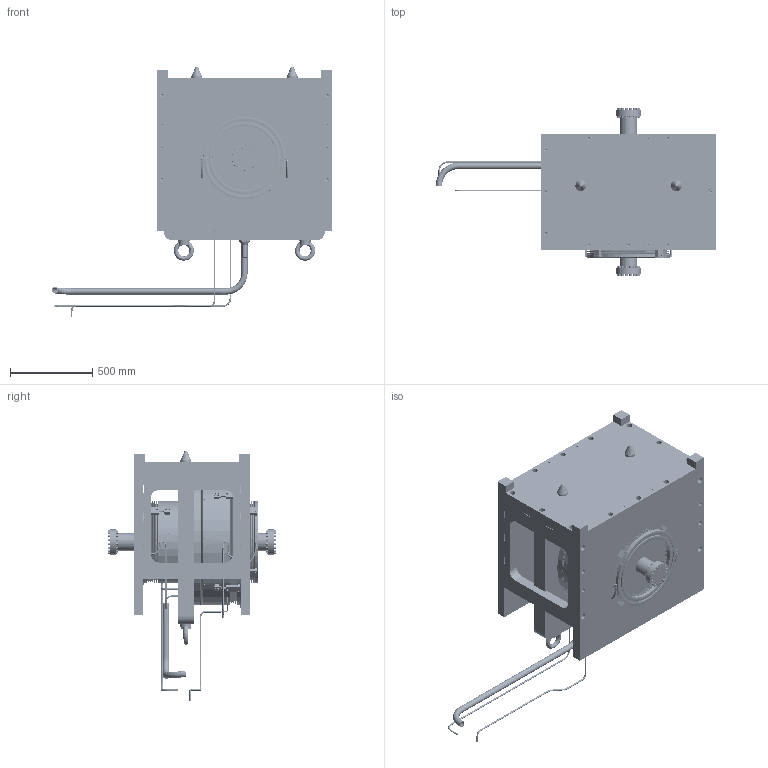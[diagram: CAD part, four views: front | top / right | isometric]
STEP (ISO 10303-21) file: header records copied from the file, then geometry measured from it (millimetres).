
FILE_DESCRIPTION(/* description */ (''),/* implementation_level */ '2;1');
FILE_NAME(/* name */ 'D:\work\inventor\缪子线3-4\氦容器5-7\检漏总装.stp',/* time_stamp */ '2026-09-14T17:05:21+08:00',/* author */ ('Administrator'),/* organization */ (''),/* preprocessor_version */ 'ST-DEVELOPER v18',/* originating_system */ 'Autodesk Inventor 2020',/* authorisation */ '');
FILE_SCHEMA (('AUTOMOTIVE_DESIGN { 1 0 10303 214 3 1 1 }'));
Products named in the file (78): 检漏总装; 螺线管充气波纹管390+610组合; 四极磁铁充气型波纹管_表面缪侧_
390mm_表面缪侧_390mm; 厚法兰_表面缪侧_390mm; 内膨胀节_表面缪侧_390
mm; 外膨胀节_表面缪侧_390
mm; 软连接管表面缪侧_390mm长行程; 10mm三通_表面缪侧_390mm; 气压管_表面缪侧_390mm; 导向机构; 导向滑块2_表面缪侧_39
0mm; 导向滑块1_表面缪侧_39
0mm; 真空管连接管_200mm_表面缪侧_
390mm; 真空管汇总管; 四极铁充气型波纹管-表面缪侧_
610mm_610mm; 厚法兰（靶站侧）_610mm; 内膨胀节_610mm; 外膨胀节束2; 薄膜法兰_610mm; 外薄膜_610mm; 内薄膜_610mm; 右两通块_610mm; 左两通块_610mm; 两通块_610mm; 软连接管_610mm; 真空转换管_610mm; 异型管接头_610mm; 气压管_610mm; 10mm三通__610mm; 真空连接管4; 充气型波纹管_表面缪侧_
390mm后; 厚法兰_表面缪侧_390mm 后; 内膨胀节_表面缪侧_390
mm后; 外膨胀节_表面缪侧_390
mm后; 薄膜法兰_表面缪侧_390
mm; 外薄膜_表面缪侧_390mm; 内薄膜-_表面缪侧_390mm; 右两通块_表面缪侧_390
mm; 左两通块_表面缪侧_390
mm; 两通块_表面缪侧_390mm ...
Assembly tree (264 placements, depth 5):
  检漏总装
    螺线管充气波纹管390+610组合
      四极磁铁充气型波纹管_表面缪侧_
390mm_表面缪侧_390mm
        厚法兰_表面缪侧_390mm
        内膨胀节_表面缪侧_390
mm
        外膨胀节_表面缪侧_390
mm
        薄膜法兰_表面缪侧_390
mm
        外薄膜_表面缪侧_390mm
        内薄膜-_表面缪侧_390mm
        两通块_表面缪侧_390mm  x2
        右两通块_表面缪侧_390
mm
        软连接管表面缪侧_390mm长行程  x2
        左两通块_表面缪侧_390
mm
        异型管接头_表面缪侧_
390mm  x2
        10mm三通_表面缪侧_390mm
        气压管_表面缪侧_390mm
        真空管连接管_200mm_表面缪侧_
390mm  x2
        导向机构  x4
          螺钉 GB/T 70.1 M6 x 30(1)
          垫圈 GB 93-87 6
          导向滑块2_表面缪侧_39
0mm
          螺钉 GB/T 70.1 M6 x 25(1)
          导向滑块1_表面缪侧_39
0mm
          螺钉 GB/T 70.1 M6 x 12(1)
          挡块
          螺钉 GB/T 70.1 M4 x 12(1)
        真空连接管1  x2
        真空管汇总管
      四极铁充气型波纹管-表面缪侧_
610mm_610mm
        厚法兰（靶站侧）_610mm
        内膨胀节_610mm
        外膨胀节束2
        薄膜法兰_610mm
        外薄膜_610mm
        内薄膜_610mm
        两通块_610mm  x2
        右两通块_610mm
        软连接管_610mm  x2
        左两通块_610mm
        真空转换管_610mm  x2
        异型管接头_610mm  x2
        气压管_610mm
        10mm三通__610mm
        导向机构2  x4
          螺钉 GB/T 70.1 M6 x 30(1)
          垫圈 GB 93-87 6
          导向滑块2_表面缪侧_61
0mm
          螺钉 GB/T 70.1 M6 x 25(1)
          导向滑块1_表面缪侧_61
0mm
          螺钉 GB/T 70.1 M6 x 12(1)
          挡块
          螺钉 GB/T 70.1 M4 x 12(1)
        真空连接管4  x2
      充气型波纹管_表面缪侧_
390mm后
        厚法兰_表面缪侧_390mm 后
        内膨胀节_表面缪侧_390
mm后
        外膨胀节_表面缪侧_390
mm后
        薄膜法兰_表面缪侧_390
mm
        外薄膜_表面缪侧_390mm
        内薄膜-_表面缪侧_390mm
Bounding box: 1701.13 x 1016 x 1523.31 mm (x, y, z)
Volume: 304294600.6 mm3; surface area: 36942114.3 mm2
Topology: 416 solids, 416 shells, 8425 faces, 21415 edges, 14113 vertices
Faces by surface type: cone 3425, plane 2900, cylinder 1597, torus 443, bspline 58, sphere 2
Full cylindrical faces by diameter (mm): 3.242 x14, 4 x78, 4.5 x12, 4.917 x84, 5 x21, 6 x172, 6.647 x72, 7 x84, 8 x159, 8.4 x64, 10 x173, 10.106 x12, 10.8 x1, 11 x72, 12 x13, 12.2 x12, 13.5 x8, 15 x64, 16 x5, 17.294 x18, 22 x20, 24 x8, 24.4 x1, 28 x1, 29.91 x2, 30 x3, 31.67 x5, 32 x5, 32.4 x1, 35 x20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
Entity records: 127201 total; most frequent: CARTESIAN_POINT 24481, DIRECTION 23525, ORIENTED_EDGE 19700, EDGE_CURVE 9850, AXIS2_PLACEMENT_3D 9822, VERTEX_POINT 6473, CIRCLE 5631, EDGE_LOOP 4393
